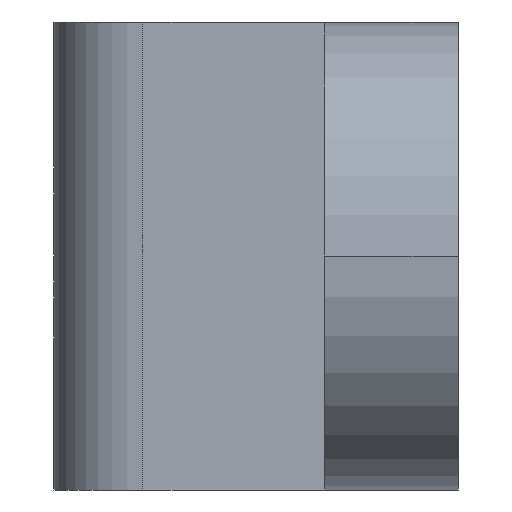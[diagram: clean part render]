
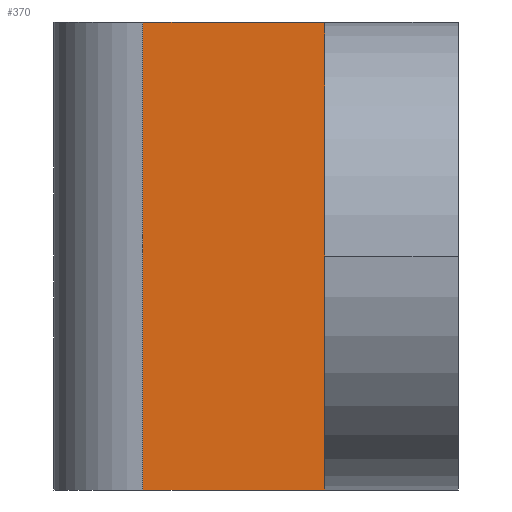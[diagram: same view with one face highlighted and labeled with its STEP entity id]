
A CAD part, left-side view. The second image highlights one B-rep face of the part: STEP entity #370.
In plain terms, the highlighted planar face has unit normal (-1, 0, 0).
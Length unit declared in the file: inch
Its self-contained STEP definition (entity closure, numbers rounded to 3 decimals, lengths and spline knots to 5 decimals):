
#13 = EDGE_CURVE ( 'NONE', #678, #538, #575, .T. ) ;
#85 = DIRECTION ( 'NONE',  ( 0., -1., 0. ) ) ;
#98 = VERTEX_POINT ( 'NONE', #1109 ) ;
#101 = LINE ( 'NONE', #173, #336 ) ;
#109 = ORIENTED_EDGE ( 'NONE', *, *, #974, .T. ) ;
#132 = EDGE_CURVE ( 'NONE', #538, #98, #1017, .T. ) ;
#173 = CARTESIAN_POINT ( 'NONE',  ( -0.46853, 0.283, 0.21 ) ) ;
#184 = CARTESIAN_POINT ( 'NONE',  ( -0.46853, 0.363, 0.21 ) ) ;
#193 = DIRECTION ( 'NONE',  ( 1., 0., 0. ) ) ;
#216 = CARTESIAN_POINT ( 'NONE',  ( -0.46853, 0.12, 0.21 ) ) ;
#265 = VECTOR ( 'NONE', #982, 39.37008 ) ;
#274 = PLANE ( 'NONE',  #916 ) ;
#321 = DIRECTION ( 'NONE',  ( 0., 0., -1. ) ) ;
#336 = VECTOR ( 'NONE', #1189, 39.37008 ) ;
#370 = ADVANCED_FACE ( 'NONE', ( #895 ), #274, .F. ) ;
#402 = DIRECTION ( 'NONE',  ( 0., 1., 0. ) ) ;
#493 = CARTESIAN_POINT ( 'NONE',  ( -0.46853, 0.363, -0.21 ) ) ;
#538 = VERTEX_POINT ( 'NONE', #216 ) ;
#539 = VERTEX_POINT ( 'NONE', #611 ) ;
#575 = LINE ( 'NONE', #876, #726 ) ;
#580 = LINE ( 'NONE', #493, #265 ) ;
#611 = CARTESIAN_POINT ( 'NONE',  ( -0.46853, 0.283, -0.21 ) ) ;
#633 = EDGE_LOOP ( 'NONE', ( #715, #792, #109, #838 ) ) ;
#675 = VECTOR ( 'NONE', #321, 39.37008 ) ;
#678 = VERTEX_POINT ( 'NONE', #1186 ) ;
#715 = ORIENTED_EDGE ( 'NONE', *, *, #132, .F. ) ;
#726 = VECTOR ( 'NONE', #85, 39.37008 ) ;
#735 = CARTESIAN_POINT ( 'NONE',  ( -0.46853, 0.12, 0.21 ) ) ;
#792 = ORIENTED_EDGE ( 'NONE', *, *, #13, .F. ) ;
#838 = ORIENTED_EDGE ( 'NONE', *, *, #991, .T. ) ;
#876 = CARTESIAN_POINT ( 'NONE',  ( -0.46853, 0.363, 0.21 ) ) ;
#895 = FACE_OUTER_BOUND ( 'NONE', #633, .T. ) ;
#916 = AXIS2_PLACEMENT_3D ( 'NONE', #184, #193, #402 ) ;
#974 = EDGE_CURVE ( 'NONE', #678, #539, #101, .T. ) ;
#982 = DIRECTION ( 'NONE',  ( 0., -1., 0. ) ) ;
#991 = EDGE_CURVE ( 'NONE', #539, #98, #580, .T. ) ;
#1017 = LINE ( 'NONE', #735, #675 ) ;
#1109 = CARTESIAN_POINT ( 'NONE',  ( -0.46853, 0.12, -0.21 ) ) ;
#1186 = CARTESIAN_POINT ( 'NONE',  ( -0.46853, 0.283, 0.21 ) ) ;
#1189 = DIRECTION ( 'NONE',  ( 0., 0., -1. ) ) ;
